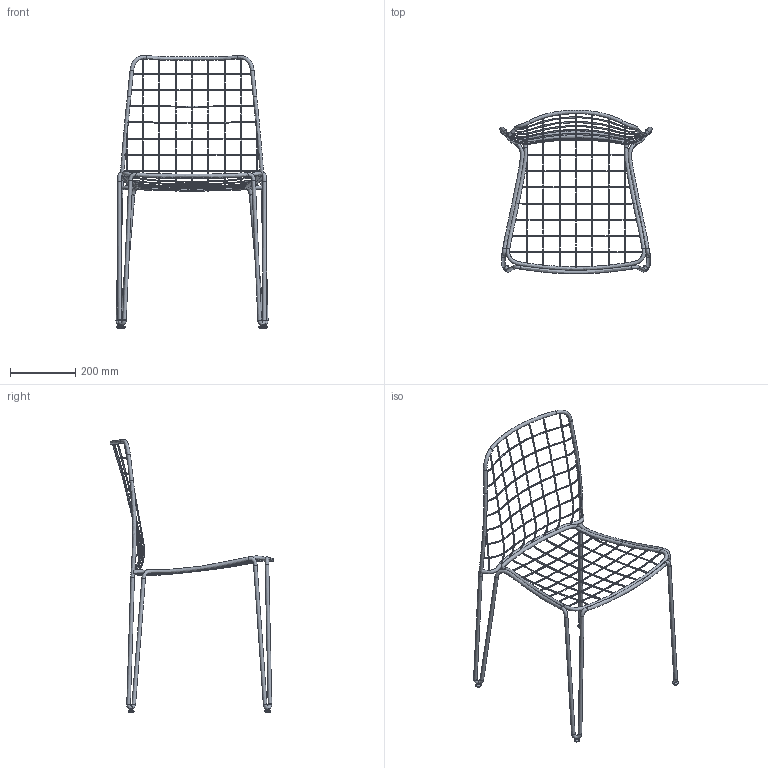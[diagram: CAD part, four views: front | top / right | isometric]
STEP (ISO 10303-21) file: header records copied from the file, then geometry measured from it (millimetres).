
FILE_DESCRIPTION(/* description */ (''),/* implementation_level */ '2;1');
FILE_NAME(/* name */ 'C:\Users\simone\Dropbox\3DTECH\Cassina - Catalogo Custom Interiors\MODELLI 3D\DEFINITIVI\ESPORTATI\CI-A04C SEDIA OUTDOOR SENZA BRACCIOLI\CI-A04C.stp',/* time_stamp */ '2021-11-24T13:34:10+07:00',/* author */ ('simone'),/* organization */ (''),/* preprocessor_version */ 'ST-DEVELOPER v18.1',/* originating_system */ 'Autodesk Inventor 2022',/* authorisation */ '');
FILE_SCHEMA (('AUTOMOTIVE_DESIGN { 1 0 10303 214 3 1 1 }'));
Length unit declared in the file: millimetre
Products named in the file (1): IN-OUT CHAI - MODIFICATA  22-09-2021
Bounding box: 465.15 x 500.25 x 834.95 mm (x, y, z)
Volume: 815574.5 mm3; surface area: 376797.5 mm2
Topology: 40 solids, 40 shells, 179 faces, 283 edges, 187 vertices
Faces by surface type: plane 74, bspline 65, cylinder 24, torus 12, cone 4
Full cylindrical faces by diameter (mm): 10 x4, 11 x12, 15 x4, 18 x4
Entity records: 26496 total; most frequent: CARTESIAN_POINT 23464, DIRECTION 614, ORIENTED_EDGE 558, AXIS2_PLACEMENT_3D 293, EDGE_CURVE 279, EDGE_LOOP 183, VERTEX_POINT 182, FACE_OUTER_BOUND 179
